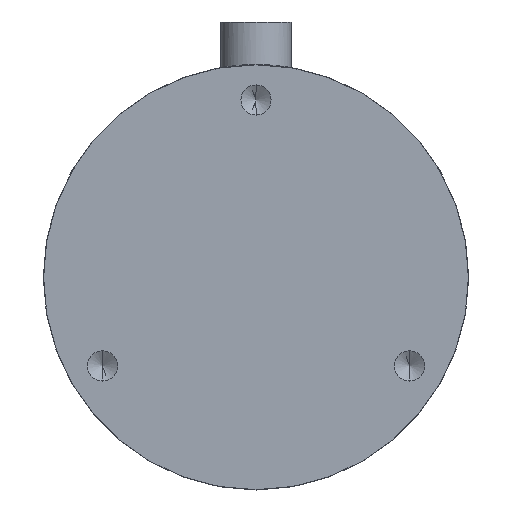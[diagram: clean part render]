
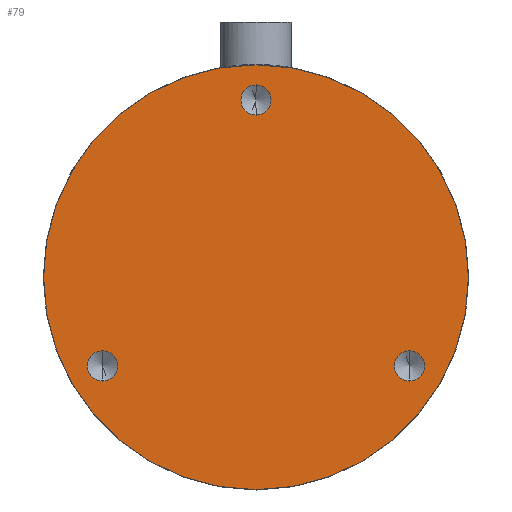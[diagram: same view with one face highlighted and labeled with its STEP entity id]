
A CAD part, front view. The second image highlights one B-rep face of the part: STEP entity #79.
In plain terms, the highlighted planar face has unit normal (0, -1, 0).
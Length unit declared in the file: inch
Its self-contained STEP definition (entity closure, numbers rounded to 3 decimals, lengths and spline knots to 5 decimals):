
#12 = CIRCLE ( 'NONE', #612, 0.05325 ) ;
#17 = CIRCLE ( 'NONE', #631, 0.05325 ) ;
#21 = CIRCLE ( 'NONE', #610, 0.05325 ) ;
#27 = CIRCLE ( 'NONE', #608, 0.05325 ) ;
#42 = CIRCLE ( 'NONE', #617, 0.05325 ) ;
#44 = CIRCLE ( 'NONE', #615, 0.749 ) ;
#47 = CIRCLE ( 'NONE', #647, 0.749 ) ;
#79 = ADVANCED_FACE ( 'NONE', ( #880, #882, #883, #884 ), #373, .F. ) ;
#87 = DIRECTION ( 'NONE',  ( 0., -1., 0. ) ) ;
#107 = CARTESIAN_POINT ( 'NONE',  ( 0., -0.55, 0.625 ) ) ;
#114 = DIRECTION ( 'NONE',  ( 0., 0., -1. ) ) ;
#119 = CARTESIAN_POINT ( 'NONE',  ( 0., -0.55, 0.625 ) ) ;
#120 = DIRECTION ( 'NONE',  ( 0., 0., -1. ) ) ;
#122 = CARTESIAN_POINT ( 'NONE',  ( 0.54127, -0.55, -0.3125 ) ) ;
#123 = DIRECTION ( 'NONE',  ( 0., -1., 0. ) ) ;
#124 = DIRECTION ( 'NONE',  ( 0., 0., -1. ) ) ;
#135 = DIRECTION ( 'NONE',  ( 0., -1., 0. ) ) ;
#140 = CARTESIAN_POINT ( 'NONE',  ( 0., -0.55, 0. ) ) ;
#141 = DIRECTION ( 'NONE',  ( 0., -1., 0. ) ) ;
#156 = DIRECTION ( 'NONE',  ( 0., 0., -1. ) ) ;
#158 = DIRECTION ( 'NONE',  ( 0., -1., 0. ) ) ;
#169 = CARTESIAN_POINT ( 'NONE',  ( 0.54127, -0.55, -0.3125 ) ) ;
#181 = DIRECTION ( 'NONE',  ( 0., 0., 1. ) ) ;
#198 = DIRECTION ( 'NONE',  ( 0., 0., 1. ) ) ;
#210 = DIRECTION ( 'NONE',  ( 0., -1., 0. ) ) ;
#213 = CARTESIAN_POINT ( 'NONE',  ( 0., -0.55, 0. ) ) ;
#249 = CARTESIAN_POINT ( 'NONE',  ( -0.54127, -0.55, -0.3125 ) ) ;
#252 = DIRECTION ( 'NONE',  ( 0., -1., 0. ) ) ;
#253 = DIRECTION ( 'NONE',  ( 0., 0., -1. ) ) ;
#257 = VERTEX_POINT ( 'NONE', #445 ) ;
#258 = VERTEX_POINT ( 'NONE', #430 ) ;
#260 = VERTEX_POINT ( 'NONE', #457 ) ;
#266 = VERTEX_POINT ( 'NONE', #440 ) ;
#272 = VERTEX_POINT ( 'NONE', #454 ) ;
#277 = VERTEX_POINT ( 'NONE', #453 ) ;
#280 = VERTEX_POINT ( 'NONE', #443 ) ;
#283 = VERTEX_POINT ( 'NONE', #429 ) ;
#373 = PLANE ( 'NONE',  #641 ) ;
#403 = DIRECTION ( 'NONE',  ( 0., 1., 0. ) ) ;
#404 = DIRECTION ( 'NONE',  ( 0., 0., 1. ) ) ;
#406 = CARTESIAN_POINT ( 'NONE',  ( -1.65557, -0.55, 0. ) ) ;
#429 = CARTESIAN_POINT ( 'NONE',  ( 0., -0.55, -0.749 ) ) ;
#430 = CARTESIAN_POINT ( 'NONE',  ( 0.54127, -0.55, -0.25925 ) ) ;
#440 = CARTESIAN_POINT ( 'NONE',  ( -0.54127, -0.55, -0.36575 ) ) ;
#443 = CARTESIAN_POINT ( 'NONE',  ( -0.54127, -0.55, -0.25925 ) ) ;
#445 = CARTESIAN_POINT ( 'NONE',  ( 0., -0.55, 0.57175 ) ) ;
#453 = CARTESIAN_POINT ( 'NONE',  ( 0., -0.55, 0.67825 ) ) ;
#454 = CARTESIAN_POINT ( 'NONE',  ( 0.54127, -0.55, -0.36575 ) ) ;
#457 = CARTESIAN_POINT ( 'NONE',  ( 0., -0.55, 0.749 ) ) ;
#485 = DIRECTION ( 'NONE',  ( 0., -1., 0. ) ) ;
#498 = CARTESIAN_POINT ( 'NONE',  ( -0.54127, -0.55, -0.3125 ) ) ;
#510 = DIRECTION ( 'NONE',  ( 0., 0., -1. ) ) ;
#524 = EDGE_CURVE ( 'NONE', #280, #266, #672, .T. ) ;
#550 = EDGE_CURVE ( 'NONE', #266, #280, #17, .T. ) ;
#551 = EDGE_CURVE ( 'NONE', #257, #277, #21, .T. ) ;
#561 = EDGE_CURVE ( 'NONE', #277, #257, #27, .T. ) ;
#564 = EDGE_CURVE ( 'NONE', #258, #272, #12, .T. ) ;
#569 = EDGE_CURVE ( 'NONE', #260, #283, #44, .T. ) ;
#571 = EDGE_CURVE ( 'NONE', #272, #258, #42, .T. ) ;
#581 = EDGE_CURVE ( 'NONE', #283, #260, #47, .T. ) ;
#601 = AXIS2_PLACEMENT_3D ( 'NONE', #498, #485, #510 ) ;
#608 = AXIS2_PLACEMENT_3D ( 'NONE', #119, #135, #120 ) ;
#610 = AXIS2_PLACEMENT_3D ( 'NONE', #107, #87, #114 ) ;
#612 = AXIS2_PLACEMENT_3D ( 'NONE', #122, #123, #124 ) ;
#615 = AXIS2_PLACEMENT_3D ( 'NONE', #140, #141, #181 ) ;
#617 = AXIS2_PLACEMENT_3D ( 'NONE', #169, #158, #156 ) ;
#631 = AXIS2_PLACEMENT_3D ( 'NONE', #249, #252, #253 ) ;
#641 = AXIS2_PLACEMENT_3D ( 'NONE', #406, #403, #404 ) ;
#647 = AXIS2_PLACEMENT_3D ( 'NONE', #213, #210, #198 ) ;
#672 = CIRCLE ( 'NONE', #601, 0.05325 ) ;
#716 = ORIENTED_EDGE ( 'NONE', *, *, #564, .F. ) ;
#732 = ORIENTED_EDGE ( 'NONE', *, *, #551, .F. ) ;
#743 = ORIENTED_EDGE ( 'NONE', *, *, #524, .F. ) ;
#750 = ORIENTED_EDGE ( 'NONE', *, *, #561, .F. ) ;
#755 = ORIENTED_EDGE ( 'NONE', *, *, #569, .T. ) ;
#773 = ORIENTED_EDGE ( 'NONE', *, *, #550, .F. ) ;
#774 = ORIENTED_EDGE ( 'NONE', *, *, #571, .F. ) ;
#777 = ORIENTED_EDGE ( 'NONE', *, *, #581, .T. ) ;
#781 = EDGE_LOOP ( 'NONE', ( #774, #716 ) ) ;
#789 = EDGE_LOOP ( 'NONE', ( #773, #743 ) ) ;
#810 = EDGE_LOOP ( 'NONE', ( #732, #750 ) ) ;
#825 = EDGE_LOOP ( 'NONE', ( #755, #777 ) ) ;
#880 = FACE_OUTER_BOUND ( 'NONE', #825, .T. ) ;
#882 = FACE_BOUND ( 'NONE', #810, .T. ) ;
#883 = FACE_BOUND ( 'NONE', #789, .T. ) ;
#884 = FACE_BOUND ( 'NONE', #781, .T. ) ;
